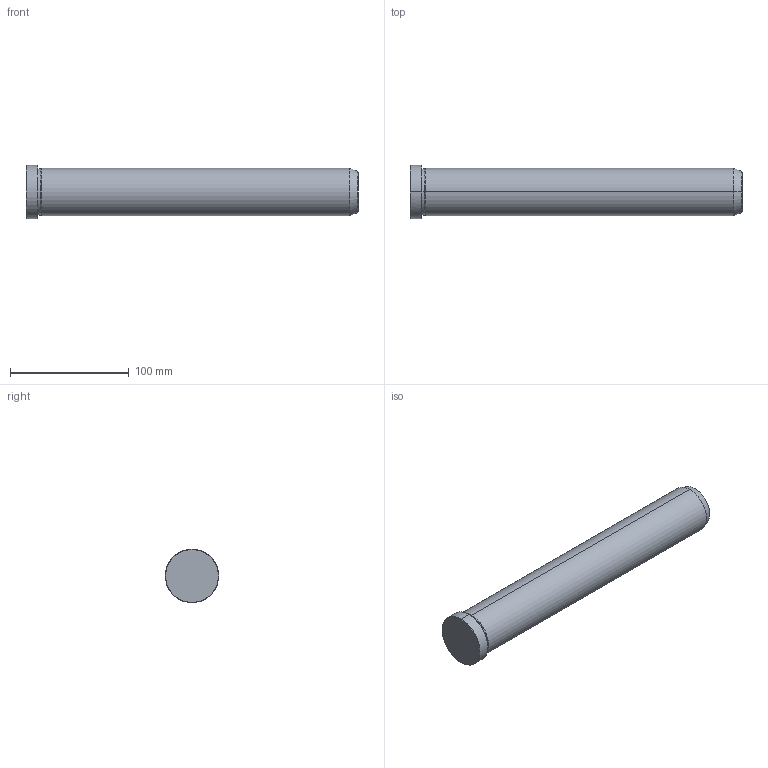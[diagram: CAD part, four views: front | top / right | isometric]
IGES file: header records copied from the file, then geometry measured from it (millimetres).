
Start section: START RECORD GO HERE.
Global section: file name: 549-40X280.igs; native system: DASSAULT SYSTEMES CATIA V5 R20 - www.3ds.com; preprocessor: CATIA Version 5 Release 20 ; author: Utente; organization: NB04-ASUS; date: 20211218.091312; units: millimetre
Bounding box: 280 x 45 x 45 mm (x, y, z)
Surface area: 38198.9 mm2 (no closed solid volume)
Topology: 0 solids, 0 shells, 19 faces, 112 edges, 112 vertices
Faces by surface type: revolution 16, plane 3
